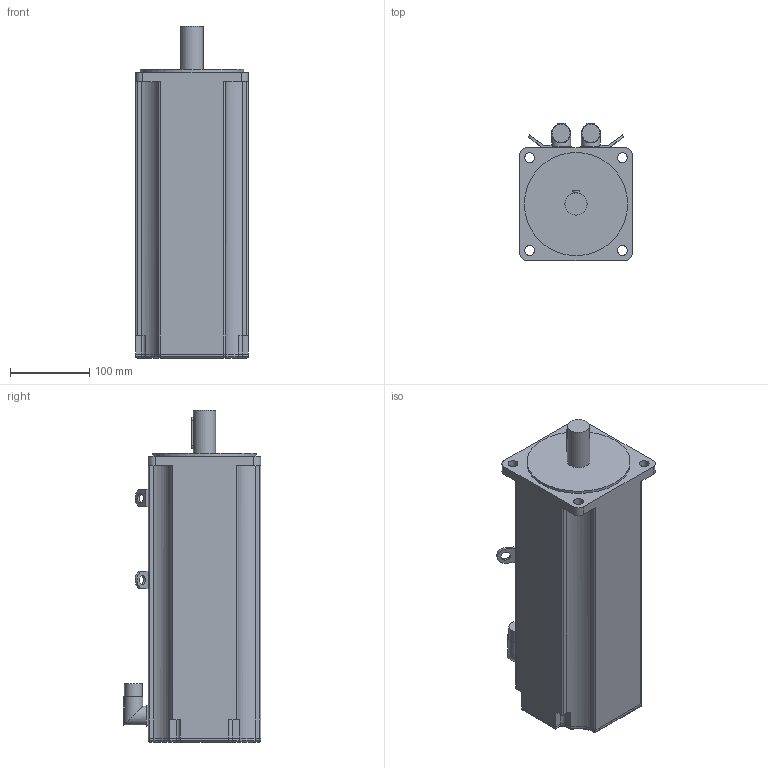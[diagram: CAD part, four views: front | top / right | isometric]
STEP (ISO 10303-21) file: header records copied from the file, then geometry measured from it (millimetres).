
FILE_DESCRIPTION(/* description */ (''),/* implementation_level */ '2;1');
FILE_NAME(/* name */ '\\Lafnas01\disegni\Archivi Lafert\3D\CAD 3D\MODELLI\Assiemi clienti\Serad\Modelli 3D Serad\B71Q\Resolver\Res Without Brake\B7132Qxx6A052033.ipt.stp',/* time_stamp */ '2015-09-07T10:53:05+02:00',/* author */ ('Pastrello Ylenia'),/* organization */ (''),/* preprocessor_version */ 'ST-DEVELOPER v15.6',/* originating_system */ 'Autodesk Inventor 2015',/* authorisation */ '');
FILE_SCHEMA (('AUTOMOTIVE_DESIGN { 1 0 10303 214 3 1 1 }'));
Length unit declared in the file: millimetre
Products named in the file (1): B7132Qxx6A052033
Bounding box: 142 x 173.5 x 418 mm (x, y, z)
Volume: 6405783.7 mm3; surface area: 245090.3 mm2
Topology: 1 solids, 1 shells, 172 faces, 450 edges, 290 vertices
Faces by surface type: plane 86, cylinder 74, torus 8, sphere 4
Full cylindrical faces by diameter (mm): 12 x2, 12.5 x4, 22.7 x2, 24 x2, 28 x1, 130 x1
Entity records: 5354 total; most frequent: CARTESIAN_POINT 1031, DIRECTION 920, ORIENTED_EDGE 868, EDGE_CURVE 434, AXIS2_PLACEMENT_3D 323, VERTEX_POINT 286, LINE 274, VECTOR 274
